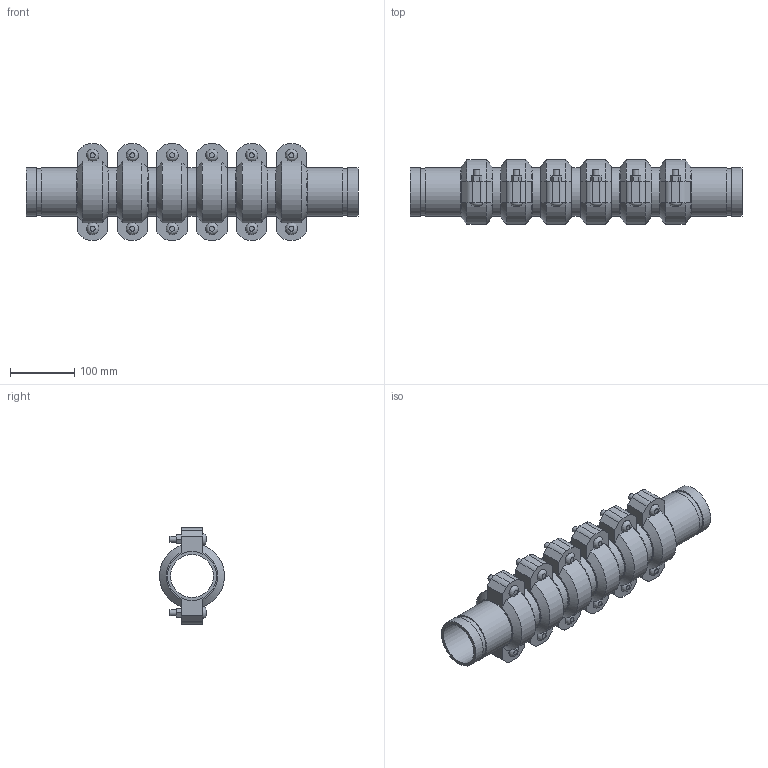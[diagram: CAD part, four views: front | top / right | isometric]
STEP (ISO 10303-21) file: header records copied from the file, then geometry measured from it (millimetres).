
FILE_DESCRIPTION(/* description */ ('VIC EXPANSION JOINT 6 COUPLINGS EXPANDED STYLE 155 (OGS)','CAx-IF Rec.Pracs.---Representation and Presentation of Product Manufacturing Information (PMI)---4.0---2014-10-13'),/* implementation_level */ '2;1');
FILE_NAME(/* name */ 'C:\Users\kkamble\AppData\Roaming\Autodesk\ApplicationPlugins\Victaulic.Temp\A6\Victaulic_IPS_Expansion Joint_Expanded_6 Couplings_Style 155 (OGS)_02.5 (76.1) (65).stp',/* time_stamp */ '2021-06-27T00:04:35+02:00',/* author */ ('kkamble'),/* organization */ ('Victaulic'),/* preprocessor_version */ 'ST-DEVELOPER v17.2',/* originating_system */ 'Autodesk Inventor 2019',/* authorisation */ '');
FILE_SCHEMA (('AP242_MANAGED_MODEL_BASED_3D_ENGINEERING_MIM_LF { 1 0 10303 442 1 1 4 }'));
Length unit declared in the file: inch
Products named in the file (4): 155-02.5 (76.1); Nipple-02.5 (76.1); Nipple-02.5 (76.1)_1; 075-02.5 (76.1)
Assembly tree (13 placements, depth 2):
  155-02.5 (76.1)
    Nipple-02.5 (76.1)  x2
    Nipple-02.5 (76.1)_1  x5
    075-02.5 (76.1)  x6
Bounding box: 517.4 x 101.25 x 149.86 mm (x, y, z)
Volume: 1819750.8 mm3; surface area: 526799.4 mm2
Topology: 13 solids, 25 shells, 426 faces, 1032 edges, 720 vertices
Faces by surface type: plane 258, cylinder 132, cone 24, bspline 12
Full cylindrical faces by diameter (mm): 9.525 x24, 11.43 x12, 66.65 x7, 69.85 x6, 72.263 x14, 76.2 x33
Entity records: 2867 total; most frequent: CARTESIAN_POINT 529, DIRECTION 471, ORIENTED_EDGE 394, EDGE_CURVE 197, AXIS2_PLACEMENT_3D 188, VERTEX_POINT 140, EDGE_LOOP 105, LINE 95
